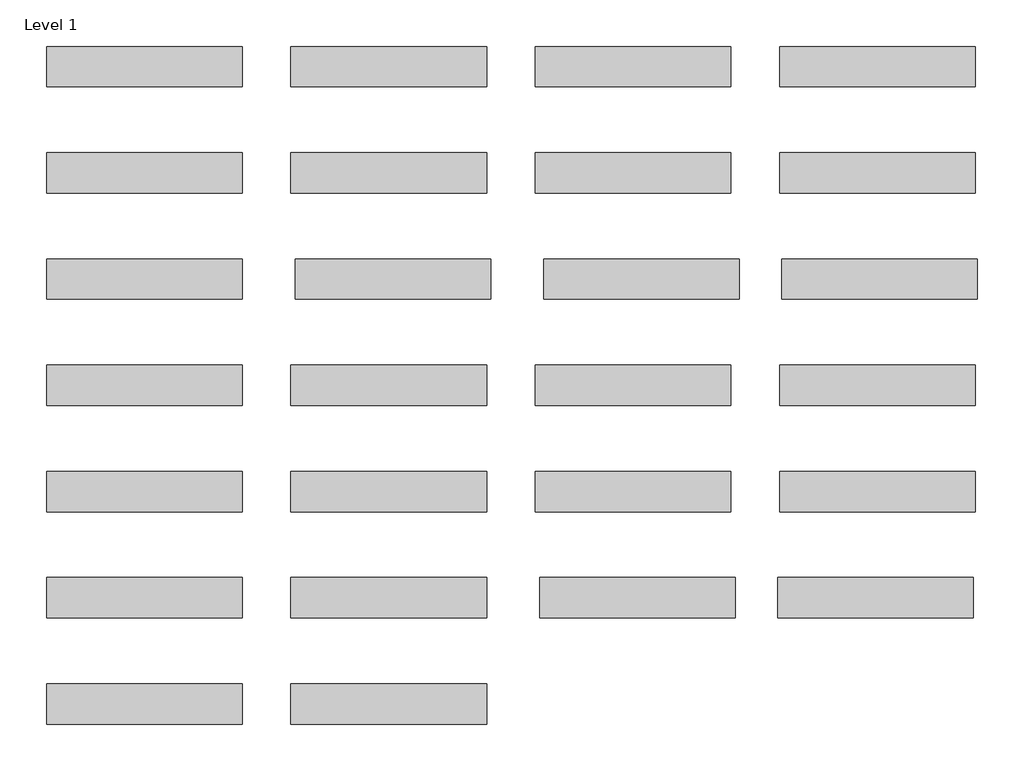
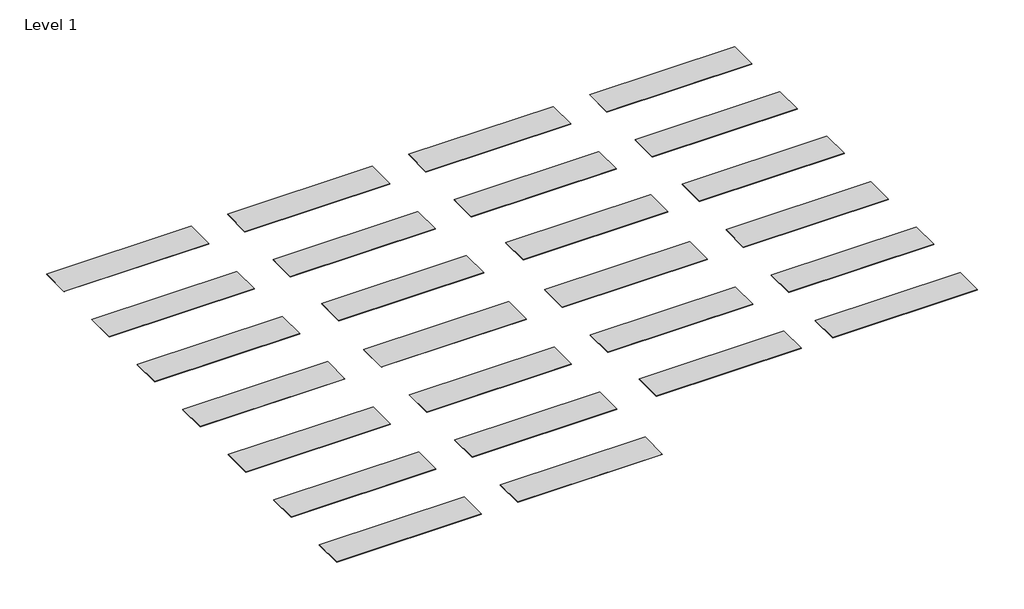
# One storey: 26 proxies.
"""IFC4 building model written with IfcOpenShell, lengths in millimetres."""

from ifc_helpers import new_model, si_unit, origin, place, context, project, spatial, transform, mapped, element, save
from components import generic_models_7f56e2ab

model = new_model("IFC4")

# Units and contexts
model_context = context("Model", 3, world=origin())
ifc_project = project(units=[si_unit("LENGTHUNIT", "METRE", prefix="MILLI")], contexts=[model_context])

# Site, building, storey
site = spatial("IfcSite", under=ifc_project)
building = spatial("IfcBuilding", under=site)
storey = spatial("IfcBuildingStorey", under=building, Name="Level 1", Elevation=0.0)

# Proxies
placement = place(None, origin())
generic_models_shape = generic_models_7f56e2ab(model_context)
element("IfcBuildingElementProxy", 1, Name="Indoor-Material_HI-MACS_Marmo : Natural-Acrylic-Stone_HI-MACS_Marmo_M428-Ispani-12mm", ObjectType="Indoor-Material_HI-MACS_Marmo : Natural-Acrylic-Stone_HI-MACS_Marmo_M428-Ispani-12mm", at=placement, inside=storey, context=model_context, shape_type="MappedRepresentation", body=[
    mapped(generic_models_shape, transform((-16732.0748674, 4227.8111796, 0.0), x_axis=(1.0, 0.0, 0.0), y_axis=(0.0, 1.0, 0.0), z_axis=(0.0, 0.0, 1.0))),
])
element("IfcBuildingElementProxy", 2, Name="Indoor-Material_HI-MACS_Marmo : Natural-Acrylic-Stone_HI-MACS_Marmo_M201-Terni-12mm", ObjectType="Indoor-Material_HI-MACS_Marmo : Natural-Acrylic-Stone_HI-MACS_Marmo_M201-Terni-12mm", at=placement, inside=storey, context=model_context, shape_type="MappedRepresentation", body=[
    mapped(generic_models_shape, transform((-12132.0748674, 4227.8111796, 0.0), x_axis=(1.0, 0.0, 0.0), y_axis=(0.0, 1.0, 0.0), z_axis=(0.0, 0.0, 1.0))),
])
element("IfcBuildingElementProxy", 3, Name="Indoor-Material_HI-MACS_Marmo : Natural-Acrylic-Stone_HI-MACS_Marmo_M427-Bellizzi-12mm", ObjectType="Indoor-Material_HI-MACS_Marmo : Natural-Acrylic-Stone_HI-MACS_Marmo_M427-Bellizzi-12mm", at=placement, inside=storey, context=model_context, shape_type="MappedRepresentation", body=[
    mapped(generic_models_shape, transform((-25932.0748674, 4227.8111796, 0.0), x_axis=(1.0, 0.0, 0.0), y_axis=(0.0, 1.0, 0.0), z_axis=(0.0, 0.0, 1.0))),
])
element("IfcBuildingElementProxy", 4, Name="Indoor-Material_HI-MACS_Marmo : Natural-Acrylic-Stone_HI-MACS_Marmo_M501-Edessa-12mm", ObjectType="Indoor-Material_HI-MACS_Marmo : Natural-Acrylic-Stone_HI-MACS_Marmo_M501-Edessa-12mm", at=placement, inside=storey, context=model_context, shape_type="MappedRepresentation", body=[
    mapped(generic_models_shape, transform((-21332.0748674, 4227.8111796, 0.0), x_axis=(1.0, 0.0, 0.0), y_axis=(0.0, 1.0, 0.0), z_axis=(0.0, 0.0, 1.0))),
])
element("IfcBuildingElementProxy", 5, Name="Indoor-Material_HI-MACS_Marmo : Natural-Acrylic-Stone_HI-MACS_Marmo_M904-Naples-12mm", ObjectType="Indoor-Material_HI-MACS_Marmo : Natural-Acrylic-Stone_HI-MACS_Marmo_M904-Naples-12mm", at=placement, inside=storey, context=model_context, shape_type="MappedRepresentation", body=[
    mapped(generic_models_shape, transform((-25932.0748674, 2227.8111796, 0.0), x_axis=(1.0, 0.0, 0.0), y_axis=(0.0, 1.0, 0.0), z_axis=(0.0, 0.0, 1.0))),
])
element("IfcBuildingElementProxy", 6, Name="Indoor-Material_HI-MACS_Marmo : Natural Acrylic Stone_HI-MACS_Marmo_M608_Aurora-Grey-12mm", ObjectType="Indoor-Material_HI-MACS_Marmo : Natural Acrylic Stone_HI-MACS_Marmo_M608_Aurora-Grey-12mm", at=placement, inside=storey, context=model_context, shape_type="MappedRepresentation", body=[
    mapped(generic_models_shape, transform((-12132.0748674, 2227.8111796, 0.0), x_axis=(1.0000000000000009, 0.0, 0.0), y_axis=(0.0, 1.0000000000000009, 0.0), z_axis=(0.0, 0.0, 1.0))),
])
element("IfcBuildingElementProxy", 7, Name="Indoor-Material_HI-MACS_Marmo : Natural Acrylic Stone_HI-MACS_Marmo_M605_Sanremo-12mm", ObjectType="Indoor-Material_HI-MACS_Marmo : Natural Acrylic Stone_HI-MACS_Marmo_M605_Sanremo-12mm", at=placement, inside=storey, context=model_context, shape_type="MappedRepresentation", body=[
    mapped(generic_models_shape, transform((-25932.0748674, 227.8111796, 0.0), x_axis=(1.0000000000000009, 0.0, 0.0), y_axis=(0.0, 1.0000000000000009, 0.0), z_axis=(0.0, 0.0, 1.0))),
])
element("IfcBuildingElementProxy", 8, Name="Indoor-Material_HI-MACS_Marmo : Natural Acrylic Stone_HI-MACS_Marmo_M603_Pavia-12mm", ObjectType="Indoor-Material_HI-MACS_Marmo : Natural Acrylic Stone_HI-MACS_Marmo_M603_Pavia-12mm", at=placement, inside=storey, context=model_context, shape_type="MappedRepresentation", body=[
    mapped(generic_models_shape, transform((-16732.0748674, 2227.8111796, 0.0), x_axis=(1.0, 0.0, 0.0), y_axis=(0.0, 1.0, 0.0), z_axis=(0.0, 0.0, 1.0))),
])
element("IfcBuildingElementProxy", 9, Name="Indoor-Material_HI-MACS_Marmo : Natural Acrylic Stone_HI-MACS_Marmo_M606_Aurora-Bianco-12mm", ObjectType="Indoor-Material_HI-MACS_Marmo : Natural Acrylic Stone_HI-MACS_Marmo_M606_Aurora-Bianco-12mm", at=placement, inside=storey, context=model_context, shape_type="MappedRepresentation", body=[
    mapped(generic_models_shape, transform((-21332.0748674, 2227.8111796, 0.0), x_axis=(1.0000000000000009, 0.0, 0.0), y_axis=(0.0, 1.0000000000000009, 0.0), z_axis=(0.0, 0.0, 1.0))),
])
element("IfcBuildingElementProxy", 10, Name="Indoor-Material_HI-MACS_Marmo : Natural Acrylic Stone_HI-MACS_Marmo_M612_Aurora-Bisque-12mm", ObjectType="Indoor-Material_HI-MACS_Marmo : Natural Acrylic Stone_HI-MACS_Marmo_M612_Aurora-Bisque-12mm", at=placement, inside=storey, context=model_context, shape_type="MappedRepresentation", body=[
    mapped(generic_models_shape, transform((-21252.290677, 227.8111796, 0.0), x_axis=(1.0000000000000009, 0.0, 0.0), y_axis=(0.0, 1.0000000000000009, 0.0), z_axis=(0.0, 0.0, 1.0))),
])
element("IfcBuildingElementProxy", 11, Name="Indoor-Material_HI-MACS_Marmo : Natural Acrylic Stone_HI-MACS_Marmo_M617_Aurora-Blanc-12mm", ObjectType="Indoor-Material_HI-MACS_Marmo : Natural Acrylic Stone_HI-MACS_Marmo_M617_Aurora-Blanc-12mm", at=placement, inside=storey, context=model_context, shape_type="MappedRepresentation", body=[
    mapped(generic_models_shape, transform((-16572.5064865, 227.8111796, 0.0), x_axis=(1.0000000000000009, 0.0, 0.0), y_axis=(0.0, 1.0000000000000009, 0.0), z_axis=(0.0, 0.0, 1.0))),
])
element("IfcBuildingElementProxy", 12, Name="Indoor-Material_HI-MACS_Marmo : Natural Acrylic Stone_HI-MACS_Marmo_M615_Aurora-Cotton-12mm", ObjectType="Indoor-Material_HI-MACS_Marmo : Natural Acrylic Stone_HI-MACS_Marmo_M615_Aurora-Cotton-12mm", at=placement, inside=storey, context=model_context, shape_type="MappedRepresentation", body=[
    mapped(generic_models_shape, transform((-12092.722296, 227.8111796, 0.0), x_axis=(1.0000000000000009, 0.0, 0.0), y_axis=(0.0, 1.0000000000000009, 0.0), z_axis=(0.0, 0.0, 1.0))),
])
element("IfcBuildingElementProxy", 13, Name="Indoor-Material_HI-MACS_Marmo : Natural Acrylic Stone_HI-MACS_Marmo_M601_Aurora-Torano-12mm", ObjectType="Indoor-Material_HI-MACS_Marmo : Natural Acrylic Stone_HI-MACS_Marmo_M601_Aurora-Torano-12mm", at=placement, inside=storey, context=model_context, shape_type="MappedRepresentation", body=[
    mapped(generic_models_shape, transform((-25932.0748674, -1772.1888204, 0.0), x_axis=(1.0000000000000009, 0.0, 0.0), y_axis=(0.0, 1.0000000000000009, 0.0), z_axis=(0.0, 0.0, 1.0))),
])
element("IfcBuildingElementProxy", 14, Name="Indoor-Material_HI-MACS_Marmo : Natural Acrylic Stone_HI-MACS_Marmo_M614_Aurora-Umber-12mm", ObjectType="Indoor-Material_HI-MACS_Marmo : Natural Acrylic Stone_HI-MACS_Marmo_M614_Aurora-Umber-12mm", at=placement, inside=storey, context=model_context, shape_type="MappedRepresentation", body=[
    mapped(generic_models_shape, transform((-21332.0748674, -1772.1888204, 0.0), x_axis=(1.0000000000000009, 0.0, 0.0), y_axis=(0.0, 1.0000000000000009, 0.0), z_axis=(0.0, 0.0, 1.0))),
])
element("IfcBuildingElementProxy", 15, Name="Indoor-Material_HI-MACS_Marmo : Natural-Acrylic-Stone_HI-MACS_Marmo_M623-Aurora-Linen-Cream-12mm", ObjectType="Indoor-Material_HI-MACS_Marmo : Natural-Acrylic-Stone_HI-MACS_Marmo_M623-Aurora-Linen-Cream-12mm", at=placement, inside=storey, context=model_context, shape_type="MappedRepresentation", body=[
    mapped(generic_models_shape, transform((-16732.0748674, -1772.1888204, 0.0), x_axis=(1.0, 0.0, 0.0), y_axis=(0.0, 1.0, 0.0), z_axis=(0.0, 0.0, 1.0))),
])
element("IfcBuildingElementProxy", 16, Name="Indoor-Material_HI-MACS_Marmo : Natural-Acrylic-Stone_HI-MACS_Marmo_M624-Aurora-Cocoa-12mm", ObjectType="Indoor-Material_HI-MACS_Marmo : Natural-Acrylic-Stone_HI-MACS_Marmo_M624-Aurora-Cocoa-12mm", at=placement, inside=storey, context=model_context, shape_type="MappedRepresentation", body=[
    mapped(generic_models_shape, transform((-12132.0748674, -1772.1888204, 0.0), x_axis=(1.0, 0.0, 0.0), y_axis=(0.0, 1.0, 0.0), z_axis=(0.0, 0.0, 1.0))),
])
element("IfcBuildingElementProxy", 17, Name="Indoor-Material_HI-MACS_Marmo : Natural-Acrylic-Stone_HI-MACS_Marmo_M625-Aurora-Terra-12mm", ObjectType="Indoor-Material_HI-MACS_Marmo : Natural-Acrylic-Stone_HI-MACS_Marmo_M625-Aurora-Terra-12mm", at=placement, inside=storey, context=model_context, shape_type="MappedRepresentation", body=[
    mapped(generic_models_shape, transform((-25932.0748674, -3772.1888204, 0.0), x_axis=(1.0, 0.0, 0.0), y_axis=(0.0, 1.0, 0.0), z_axis=(0.0, 0.0, 1.0))),
])
element("IfcBuildingElementProxy", 18, Name="Indoor-Material_HI-MACS_Marmo : Natural-Acrylic-Stone_HI-MACS_Marmo_M627-Aurora-Butter-Cream-12mm", ObjectType="Indoor-Material_HI-MACS_Marmo : Natural-Acrylic-Stone_HI-MACS_Marmo_M627-Aurora-Butter-Cream-12mm", at=placement, inside=storey, context=model_context, shape_type="MappedRepresentation", body=[
    mapped(generic_models_shape, transform((-21332.0748674, -3772.1888204, 0.0), x_axis=(1.0, 0.0, 0.0), y_axis=(0.0, 1.0, 0.0), z_axis=(0.0, 0.0, 1.0))),
])
element("IfcBuildingElementProxy", 19, Name="Indoor-Material_HI-MACS_Marmo : Natural-Acrylic-Stone_HI-MACS_Marmo_M701-Aurora-Ecru-12mm", ObjectType="Indoor-Material_HI-MACS_Marmo : Natural-Acrylic-Stone_HI-MACS_Marmo_M701-Aurora-Ecru-12mm", at=placement, inside=storey, context=model_context, shape_type="MappedRepresentation", body=[
    mapped(generic_models_shape, transform((-16732.0748674, -3772.1888204, 0.0), x_axis=(1.0, 0.0, 0.0), y_axis=(0.0, 1.0, 0.0), z_axis=(0.0, 0.0, 1.0))),
])
element("IfcBuildingElementProxy", 20, Name="Indoor-Material_HI-MACS_Marmo : Natural-Acrylic-Stone_HI-MACS_Marmo_M702-Aurora-Frost-12mm", ObjectType="Indoor-Material_HI-MACS_Marmo : Natural-Acrylic-Stone_HI-MACS_Marmo_M702-Aurora-Frost-12mm", at=placement, inside=storey, context=model_context, shape_type="MappedRepresentation", body=[
    mapped(generic_models_shape, transform((-12132.0748674, -3772.1888204, 0.0), x_axis=(1.0, 0.0, 0.0), y_axis=(0.0, 1.0, 0.0), z_axis=(0.0, 0.0, 1.0))),
])
element("IfcBuildingElementProxy", 21, Name="Indoor-Material_HI-MACS_Marmo : Natural-Acrylic-Stone_HI-MACS_Marmo_M703-Aurora-Midnight-12mm", ObjectType="Indoor-Material_HI-MACS_Marmo : Natural-Acrylic-Stone_HI-MACS_Marmo_M703-Aurora-Midnight-12mm", at=placement, inside=storey, context=model_context, shape_type="MappedRepresentation", body=[
    mapped(generic_models_shape, transform((-25932.0748674, -5772.1888204, 0.0), x_axis=(1.0, 0.0, 0.0), y_axis=(0.0, 1.0, 0.0), z_axis=(0.0, 0.0, 1.0))),
])
element("IfcBuildingElementProxy", 22, Name="Indoor-Material_HI-MACS_Marmo : Natural-Acrylic-Stone_HI-MACS_Marmo_M705-Aurora-Canyon-12mm", ObjectType="Indoor-Material_HI-MACS_Marmo : Natural-Acrylic-Stone_HI-MACS_Marmo_M705-Aurora-Canyon-12mm", at=placement, inside=storey, context=model_context, shape_type="MappedRepresentation", body=[
    mapped(generic_models_shape, transform((-21332.0748674, -5772.1888204, 0.0), x_axis=(1.0, 0.0, 0.0), y_axis=(0.0, 1.0, 0.0), z_axis=(0.0, 0.0, 1.0))),
])
element("IfcBuildingElementProxy", 23, Name="Indoor-Material_HI-MACS_Marmo : Natural-Acrylic-Stone_HI-MACS_Marmo_M706-Aurora-Angora-12mm", ObjectType="Indoor-Material_HI-MACS_Marmo : Natural-Acrylic-Stone_HI-MACS_Marmo_M706-Aurora-Angora-12mm", at=placement, inside=storey, context=model_context, shape_type="MappedRepresentation", body=[
    mapped(generic_models_shape, transform((-16652.290677, -5772.1888204, 0.0), x_axis=(1.0, 0.0, 0.0), y_axis=(0.0, 1.0, 0.0), z_axis=(0.0, 0.0, 1.0))),
])
element("IfcBuildingElementProxy", 24, Name="Indoor-Material_HI-MACS_Marmo : Natural-Acrylic-Stone_HI-MACS_Marmo_M707-Aurora-Magnolia-12mm", ObjectType="Indoor-Material_HI-MACS_Marmo : Natural-Acrylic-Stone_HI-MACS_Marmo_M707-Aurora-Magnolia-12mm", at=placement, inside=storey, context=model_context, shape_type="MappedRepresentation", body=[
    mapped(generic_models_shape, transform((-12172.5064865, -5772.1888204, 0.0), x_axis=(1.0, 0.0, 0.0), y_axis=(0.0, 1.0, 0.0), z_axis=(0.0, 0.0, 1.0))),
])
element("IfcBuildingElementProxy", 25, Name="Indoor-Material_HI-MACS_Marmo : Natural-Acrylic-Stone_HI-MACS_Marmo_M708-Aurora-Sable-12mm", ObjectType="Indoor-Material_HI-MACS_Marmo : Natural-Acrylic-Stone_HI-MACS_Marmo_M708-Aurora-Sable-12mm", at=placement, inside=storey, context=model_context, shape_type="MappedRepresentation", body=[
    mapped(generic_models_shape, transform((-25932.0748674, -7772.1888204, 0.0), x_axis=(1.0, 0.0, 0.0), y_axis=(0.0, 1.0, 0.0), z_axis=(0.0, 0.0, 1.0))),
])
element("IfcBuildingElementProxy", 26, Name="Indoor-Material_HI-MACS_Marmo : Natural-Acrylic-Stone_HI-MACS_Marmo_M801-Aurora-Calacatta-Luna-12mm", ObjectType="Indoor-Material_HI-MACS_Marmo : Natural-Acrylic-Stone_HI-MACS_Marmo_M801-Aurora-Calacatta-Luna-12mm", at=placement, inside=storey, context=model_context, shape_type="MappedRepresentation", body=[
    mapped(generic_models_shape, transform((-21332.0748674, -7772.1888204, 0.0), x_axis=(1.0, 0.0, 0.0), y_axis=(0.0, 1.0, 0.0), z_axis=(0.0, 0.0, 1.0))),
])

save(model, "model.ifc")
